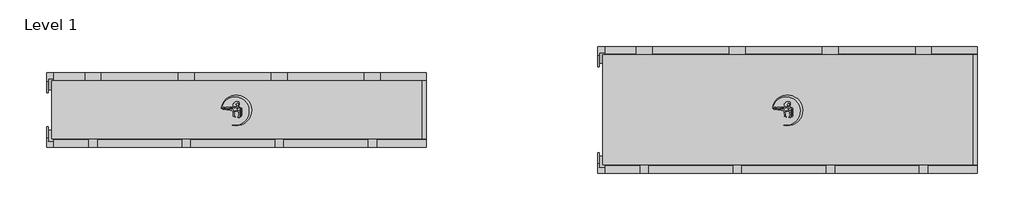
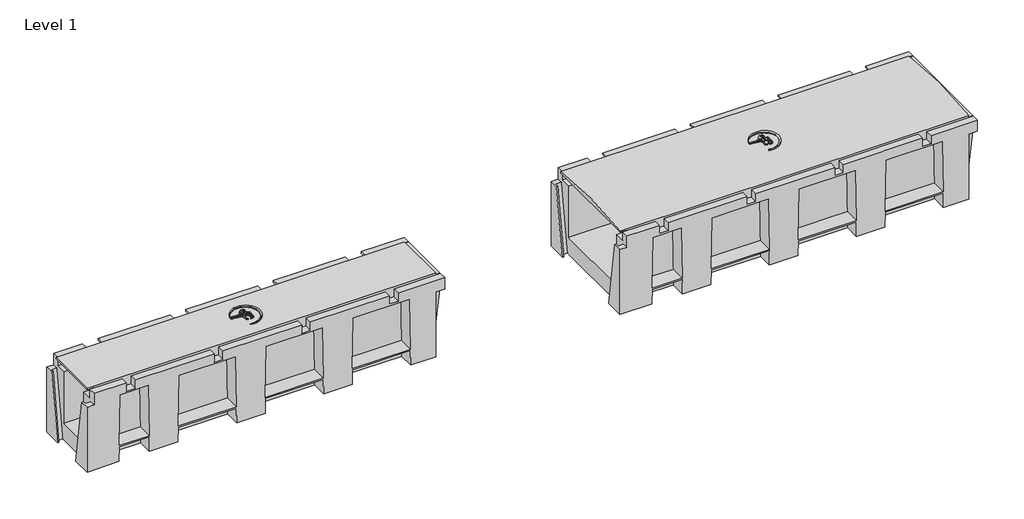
# One storey: 2 cable carrier fittings.
"""IFC4 building model written with IfcOpenShell, lengths in millimetres."""

from ifc_helpers import new_model, si_unit, origin, place, context, project, spatial, transform, mapped, element, save
from components import cable_carrier_fitting_8a8851dd, cable_carrier_fitting_28983398

model = new_model("IFC4")

# Units and contexts
model_context = context("Model", 3, world=origin())
ifc_project = project(units=[si_unit("LENGTHUNIT", "METRE", prefix="MILLI")], contexts=[model_context])

# Site, building, storey
site = spatial("IfcSite", under=ifc_project)
building = spatial("IfcBuilding", under=site)
storey = spatial("IfcBuildingStorey", under=building, Name="Level 1", Elevation=0.0)

# Cable carrier fittings
placement = place(None, origin())
cable_carrier_fitting_shape = cable_carrier_fitting_8a8851dd(model_context)
element("IfcCableCarrierFitting", 1, ObjectType="Evotray with cover : Evotray type 1", at=placement, inside=storey, context=model_context, shape_type="MappedRepresentation", body=[
    mapped(cable_carrier_fitting_shape, transform((-168.3249837, 781.0437029, 0.0), x_axis=(1.0, 0.0, 0.0), y_axis=(0.0, 1.0, 0.0), z_axis=(0.0, 0.0, 1.0))),
])
cable_carrier_fitting_2_shape = cable_carrier_fitting_28983398(model_context)
element("IfcCableCarrierFitting", 2, ObjectType="Evotray with cover : Evotray type 2", at=placement, inside=storey, context=model_context, shape_type="MappedRepresentation", body=[
    mapped(cable_carrier_fitting_2_shape, transform((1311.6750163, 781.0437029, 0.0), x_axis=(1.0, 0.0, 0.0), y_axis=(0.0, 1.0, 0.0), z_axis=(0.0, 0.0, 1.0))),
])

save(model, "model.ifc")
